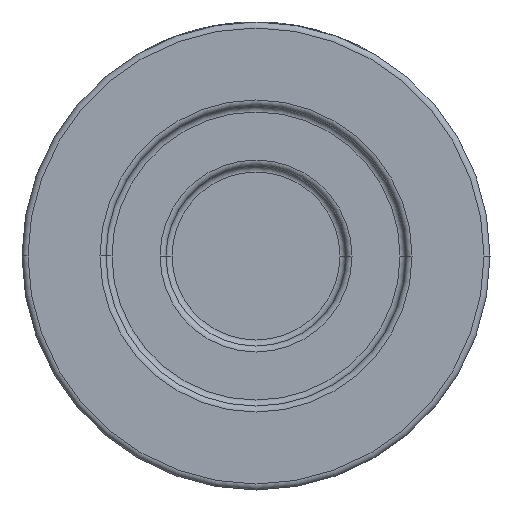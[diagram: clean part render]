
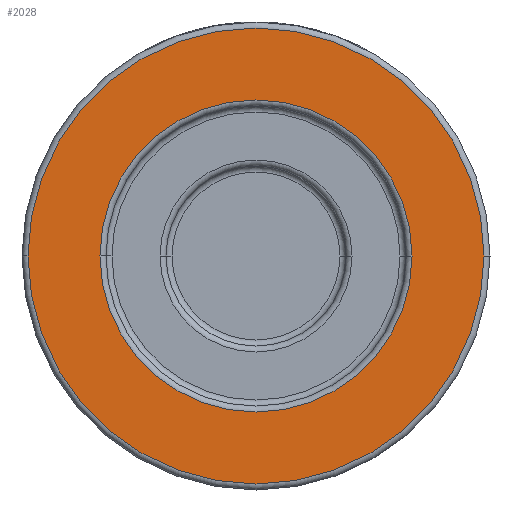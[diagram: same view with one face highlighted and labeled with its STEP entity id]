
A CAD part, front view. The second image highlights one B-rep face of the part: STEP entity #2028.
In plain terms, the highlighted planar face has unit normal (0, -1, 0).
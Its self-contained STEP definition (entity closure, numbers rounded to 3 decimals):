
#252 = CARTESIAN_POINT ( 'NONE',  ( 0., -35., 0. ) ) ;
#300 = DIRECTION ( 'NONE',  ( 0., -1., 0. ) ) ;
#438 = ORIENTED_EDGE ( 'NONE', *, *, #2990, .T. ) ;
#450 = CIRCLE ( 'NONE', #4697, 26. ) ;
#451 = DIRECTION ( 'NONE',  ( 0., -1., 0. ) ) ;
#546 = EDGE_CURVE ( 'NONE', #1892, #2287, #1357, .T. ) ;
#563 = DIRECTION ( 'NONE',  ( 1., 0., 0. ) ) ;
#627 = EDGE_CURVE ( 'NONE', #2545, #3379, #450, .T. ) ;
#631 = CARTESIAN_POINT ( 'NONE',  ( 38., -35., 0. ) ) ;
#1008 = CARTESIAN_POINT ( 'NONE',  ( 0., -35., 0. ) ) ;
#1103 = EDGE_LOOP ( 'NONE', ( #438, #2192 ) ) ;
#1137 = FACE_OUTER_BOUND ( 'NONE', #1476, .T. ) ;
#1292 = CARTESIAN_POINT ( 'NONE',  ( 26., -35., 0. ) ) ;
#1306 = ORIENTED_EDGE ( 'NONE', *, *, #2371, .T. ) ;
#1357 = CIRCLE ( 'NONE', #3177, 38. ) ;
#1476 = EDGE_LOOP ( 'NONE', ( #1306, #3495 ) ) ;
#1497 = FACE_BOUND ( 'NONE', #1103, .T. ) ;
#1656 = CARTESIAN_POINT ( 'NONE',  ( 0., -35., 0. ) ) ;
#1701 = CARTESIAN_POINT ( 'NONE',  ( 0., -35., 0. ) ) ;
#1752 = AXIS2_PLACEMENT_3D ( 'NONE', #1701, #300, #3935 ) ;
#1857 = DIRECTION ( 'NONE',  ( 1., 0., 0. ) ) ;
#1892 = VERTEX_POINT ( 'NONE', #4421 ) ;
#2028 = ADVANCED_FACE ( 'NONE', ( #1497, #1137 ), #2950, .T. ) ;
#2131 = AXIS2_PLACEMENT_3D ( 'NONE', #4039, #451, #1857 ) ;
#2192 = ORIENTED_EDGE ( 'NONE', *, *, #627, .T. ) ;
#2287 = VERTEX_POINT ( 'NONE', #631 ) ;
#2371 = EDGE_CURVE ( 'NONE', #2287, #1892, #2738, .T. ) ;
#2388 = DIRECTION ( 'NONE',  ( 0., 1., 0. ) ) ;
#2416 = CIRCLE ( 'NONE', #2513, 26. ) ;
#2513 = AXIS2_PLACEMENT_3D ( 'NONE', #252, #2388, #3157 ) ;
#2545 = VERTEX_POINT ( 'NONE', #3411 ) ;
#2738 = CIRCLE ( 'NONE', #1752, 38. ) ;
#2950 = PLANE ( 'NONE',  #2131 ) ;
#2990 = EDGE_CURVE ( 'NONE', #3379, #2545, #2416, .T. ) ;
#3157 = DIRECTION ( 'NONE',  ( 1., 0., 0. ) ) ;
#3177 = AXIS2_PLACEMENT_3D ( 'NONE', #1656, #4087, #563 ) ;
#3379 = VERTEX_POINT ( 'NONE', #1292 ) ;
#3411 = CARTESIAN_POINT ( 'NONE',  ( -26., -35., 0. ) ) ;
#3495 = ORIENTED_EDGE ( 'NONE', *, *, #546, .T. ) ;
#3858 = DIRECTION ( 'NONE',  ( 0., 1., 0. ) ) ;
#3935 = DIRECTION ( 'NONE',  ( 1., 0., 0. ) ) ;
#4039 = CARTESIAN_POINT ( 'NONE',  ( 39., -35., 0. ) ) ;
#4087 = DIRECTION ( 'NONE',  ( 0., -1., 0. ) ) ;
#4212 = DIRECTION ( 'NONE',  ( 1., 0., 0. ) ) ;
#4421 = CARTESIAN_POINT ( 'NONE',  ( -38., -35., 0. ) ) ;
#4697 = AXIS2_PLACEMENT_3D ( 'NONE', #1008, #3858, #4212 ) ;
